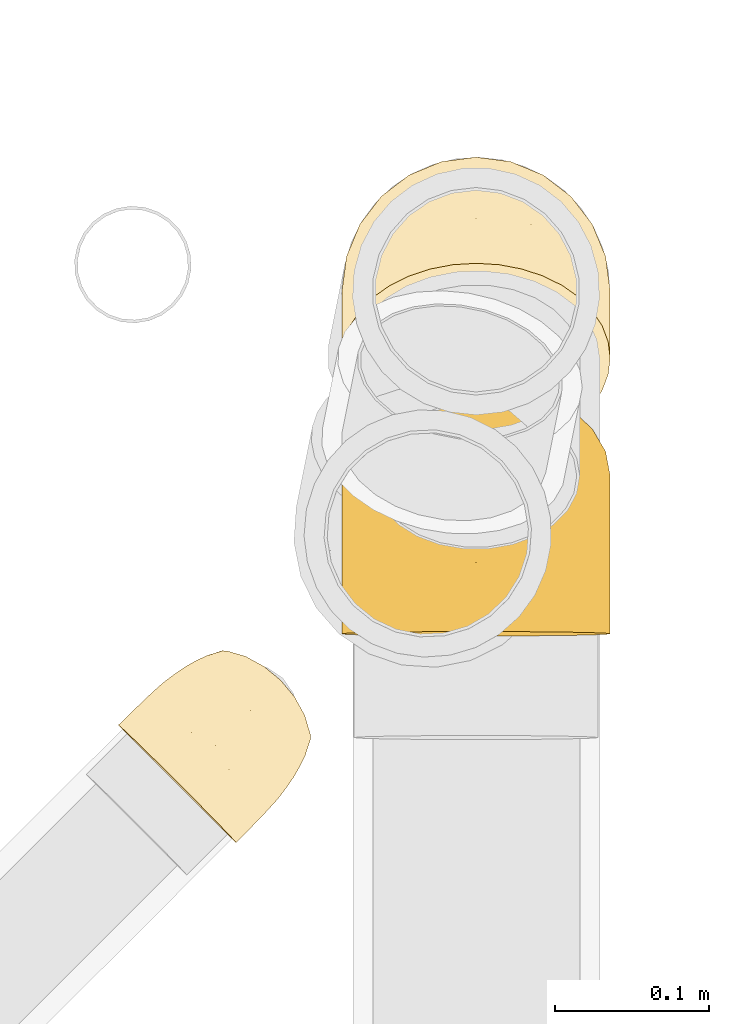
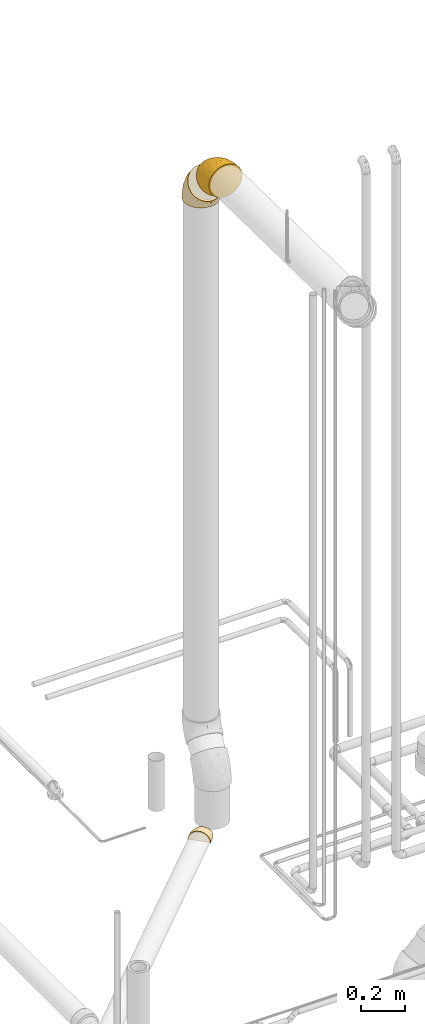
# One storey, part 26 of 156: 3 coverings.
"""IFC2X3 building model written with IfcOpenShell, lengths in millimetres."""

from ifc_helpers import new_model, entity, si_unit, converted_unit, derived_unit, direction, frame, origin_with_axes, place, context, subcontext, project, spatial, open_shell, faceted_brep, surface_model, source, transform, mapped, element, save


model = new_model("IFC2X3")

# Units and contexts
model_context = context("Model", 3, precision=0.01, world=frame((0.0, 4.29681676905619e-09, 0.0)), true_north=direction((4.01073788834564e-13, 1.0)))
plan_context = context("Plan", 3, precision=0.01, world=frame((0.0, 4.29681676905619e-09, 0.0)), true_north=direction((4.01073788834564e-13, 1.0)))
body_context = subcontext(model_context, "Body", "Model", "MODEL_VIEW")
ifc_project = project(units=[converted_unit("PLANEANGLEUNIT", "DEGREE", entity("IfcPositiveLengthMeasure", 0.0174532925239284), si_unit("PLANEANGLEUNIT", "RADIAN"), dimensions=[0, 0, 0, 0, 0, 0, 0]), si_unit("AREAUNIT", "SQUARE_METRE"), si_unit("LENGTHUNIT", "METRE", prefix="MILLI"), si_unit("MASSUNIT", "GRAM", prefix="KILO"), si_unit("POWERUNIT", "WATT"), si_unit("PRESSUREUNIT", "PASCAL", prefix="KILO"), si_unit("FORCEUNIT", "NEWTON", prefix="KILO"), si_unit("ELECTRICVOLTAGEUNIT", "VOLT"), si_unit("ELECTRICCURRENTUNIT", "AMPERE"), si_unit("THERMODYNAMICTEMPERATUREUNIT", "DEGREE_CELSIUS"), si_unit("TIMEUNIT", "SECOND"), si_unit("VOLUMEUNIT", "CUBIC_METRE"), derived_unit("LINEARVELOCITYUNIT", [(si_unit("LENGTHUNIT", "METRE"), 1), (si_unit("TIMEUNIT", "SECOND"), -1)]), derived_unit("VOLUMETRICFLOWRATEUNIT", [(si_unit("VOLUMEUNIT", "CUBIC_METRE"), 1), (si_unit("TIMEUNIT", "SECOND"), -1)]), derived_unit("THERMALTRANSMITTANCEUNIT", [(si_unit("POWERUNIT", "WATT"), 1), (si_unit("THERMODYNAMICTEMPERATUREUNIT", "KELVIN"), -1), (si_unit("AREAUNIT", "SQUARE_METRE"), -1)]), derived_unit("SOUNDPRESSUREUNIT", [(si_unit("PRESSUREUNIT", "PASCAL"), 1)])], contexts=[model_context, plan_context])

# Site, building, storey
site_placement = place(None, frame((0.0, -4.29681676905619e-09, 0.0), z_axis=(0.0, 0.0, 1.0), x_axis=(1.0, 0.0, 0.0)))
site = spatial("IfcSite", under=ifc_project, at=site_placement, CompositionType="ELEMENT")
building_placement = place(site_placement, frame((0.0, 4.29681676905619e-09, 0.0), z_axis=(0.0, 0.0, 1.0), x_axis=(1.0, 0.0, 0.0)))
building = spatial("IfcBuilding", under=site, at=building_placement, Name="mc-building", CompositionType="ELEMENT")
storey_placement = place(building_placement, frame((0.0, 0.0, 205200.0), z_axis=(0.0, 0.0, 1.0), x_axis=(1.0, 0.0, 0.0)))
storey = spatial("IfcBuildingStorey", under=building, at=storey_placement, Name="Nivå D + 1,2 m", CompositionType="ELEMENT", Elevation=205200.0)

# Coverings
shared_shape_1 = source(origin_with_axes(), body_context, "Body", "SurfaceModel", [
    surface_model("IfcShellBasedSurfaceModel", [(96.92175, -9.93246, -43.63085), (83.14842, 3.84086, -66.84099), (104.25196, -17.26267, -15.15456), (90.75284, -3.76355, -56.08822), (101.4676, -14.47832, -29.84685), (104.25267, -17.26338, 15.14884), (105.18971, -18.20042, 0.0), (-61.51071, 84.27703, -22.58196), (-61.51071, 61.69507, 61.69507), (-61.51071, 87.25, 0.0), (-61.51071, 61.69507, -61.69507), (-61.51071, 75.56072, -43.625), (-61.51071, 43.625, -75.56072), (-61.51071, 22.58196, -84.27703), (-61.51071, 84.27703, 22.58196), (-61.51071, 75.56072, 43.625), (-61.51071, 22.58196, 84.27703), (-61.51071, 43.625, 75.56072), (-61.51071, 0.0, 87.25), (-61.51071, -22.58196, -84.27703), (-61.51071, -61.69507, -61.69507), (-61.51071, -43.625, -75.56072), (-61.51071, -84.27703, -22.58196), (-61.51071, -75.56072, -43.625), (-61.51071, -22.58196, 84.27703), (-61.51071, -43.625, 75.56072), (-61.51071, -75.56072, 43.625), (-61.51071, -61.69507, 61.69507), (-61.51071, -87.25, 0.0), (-61.51071, -84.27703, 22.58196), (-61.51071, 0.0, -87.25), (49.94408, -31.42666, 60.20486), (36.66407, -25.68571, 70.46794), (-2.41505, -50.25138, 64.41375), (-15.51817, -82.72013, 0.0), (5.39014, -73.8055, 24.7907), (28.70691, -69.3046, 0.0), (69.46497, -47.51896, 0.0), (49.04275, -57.66779, 17.68682), (3.06642, -7.40299, 84.86798), (44.05947, -6.10182, 78.19376), (54.21053, 32.77875, 85.92382), (23.31676, -56.28888, 47.53773), (-22.03918, -66.60971, 51.81083), (74.34631, 12.64297, 75.55734), (12.73929, 19.89523, 87.25), (-23.07609, 5.06001, 87.25), (-29.1157, -32.30381, 79.84183), (61.71586, -43.47857, 35.67326), (101.46978, -14.48049, 29.83841), (90.75836, -3.76908, 56.07891), (96.92567, -9.93639, 43.62124), (83.15501, 3.83428, 66.83318), (10.91563, -26.34768, 77.1468), (43.49464, 43.49464, 87.25), (64.59955, 22.38973, 81.98615), (8.40151, 39.12611, 85.22446), (-23.83137, 57.53545, 71.47388), (-28.10389, 33.73734, 82.29869), (-2.21756, 53.91905, 79.07691), (-44.71865, 54.60414, 69.22008), (-49.79103, 89.58119, 0.0), (-40.41301, 88.79935, 18.88754), (-49.04358, 82.48312, 31.62645), (-27.39793, 94.08428, 22.58668), (-34.94147, 84.35774, 36.8792), (-37.82729, 70.34331, 56.08752), (-15.4013, 74.9489, 61.69936), (-22.17297, 90.15895, 38.82495), (-3.76355, 90.75284, 56.08822), (-9.93246, 96.92175, 43.63085), (22.3957, 64.59359, 81.98922), (12.64977, 74.33952, 75.56289), (-38.07135, 91.91238, 0.0), (3.84086, 83.14842, 66.84099), (-17.26267, 104.25196, 15.15456), (-28.13589, 98.55104, 0.0), (32.7828, 54.20649, 85.92482), (-14.47832, 101.4676, 29.84685), (-18.20042, 105.18971, 0.0), (-47.55395, 70.45825, -53.11443), (-34.71085, 60.05887, -66.83377), (-42.15077, 88.57974, -17.23989), (-30.07501, 92.4973, -22.57953), (-45.69571, 82.4762, -33.38913), (-32.0337, 77.3373, -50.04045), (-15.40587, 74.95618, -61.69077), (-0.19598, 57.5653, -78.13569), (3.83428, 83.15501, -66.83318), (12.64297, 74.34631, -75.55734), (12.73929, 19.89523, -87.25), (-18.60686, 25.9378, -85.23447), (5.3683, 41.81653, -84.27577), (-19.13019, 85.64492, -48.25404), (-14.48049, 101.46978, -29.83841), (-9.93639, 96.92567, -43.62124), (-23.07609, 5.06001, -87.25), (-18.79439, 45.37619, -79.07267), (-39.82663, 33.66047, -81.31439), (32.77875, 54.21053, -85.92382), (-46.62686, 90.21058, 0.0), (-17.26338, 104.25267, -15.14884), (-3.76908, 90.75836, -56.07891), (22.38973, 64.59955, -81.98615), (43.49464, 43.49464, -87.25), (3.06455, -7.39848, -84.86914), (-2.42075, -50.24511, -64.42072), (36.65759, -25.67933, -70.47432), (49.93768, -31.42103, -60.21341), (64.25148, -47.66713, -21.66027), (44.05272, -6.09576, -78.19812), (74.33952, 12.64977, -75.56289), (10.90946, -26.34098, -77.15131), (-22.04933, -66.6058, -51.81852), (5.39814, -73.82445, -24.72159), (23.31194, -56.28434, -47.54704), (-29.122, -32.30458, -79.84198), (62.51766, -36.3023, -46.11965), (64.59359, 22.3957, -81.98922), (54.20649, 32.7828, -85.92482)], [open_shell([[[0, 1, 2]], [[0, 3, 1]], [[0, 2, 4]], [[5, 6, 2]], [[7, 8, 9]], [[10, 7, 11]], [[8, 7, 12]], [[12, 7, 10]], [[8, 12, 13]], [[14, 8, 15]], [[14, 9, 8]], [[8, 16, 17]], [[13, 16, 8]], [[13, 18, 16]], [[13, 19, 18]], [[19, 20, 18]], [[20, 19, 21]], [[22, 18, 23]], [[18, 20, 23]], [[24, 18, 22]], [[25, 26, 27]], [[28, 25, 24]], [[26, 28, 29]], [[28, 26, 25]], [[24, 22, 28]], [[19, 13, 30]], [[31, 32, 33]], [[29, 28, 34]], [[35, 34, 36]], [[37, 38, 36]], [[39, 40, 41]], [[42, 33, 43]], [[32, 44, 40]], [[35, 42, 43]], [[45, 46, 39]], [[47, 24, 25]], [[35, 36, 38]], [[42, 35, 48]], [[25, 27, 33]], [[46, 18, 24]], [[47, 39, 24]], [[26, 29, 35]], [[42, 31, 33]], [[24, 39, 46]], [[38, 5, 49]], [[29, 34, 35]], [[31, 48, 50]], [[48, 51, 50]], [[49, 48, 38]], [[5, 37, 6]], [[27, 43, 33]], [[52, 32, 31]], [[50, 52, 31]], [[33, 32, 53]], [[45, 39, 41]], [[54, 45, 41]], [[43, 27, 26]], [[33, 53, 47]], [[42, 48, 31]], [[55, 40, 44]], [[5, 38, 37]], [[32, 40, 53]], [[44, 32, 52]], [[40, 55, 41]], [[35, 38, 48]], [[49, 51, 48]], [[35, 43, 26]], [[53, 40, 39]], [[33, 47, 25]], [[39, 47, 53]], [[56, 46, 45]], [[16, 18, 46]], [[57, 58, 59]], [[58, 46, 56]], [[16, 46, 58]], [[17, 60, 8]], [[61, 9, 14]], [[58, 57, 60]], [[58, 60, 17]], [[62, 14, 63]], [[64, 62, 65]], [[66, 57, 67]], [[62, 63, 65]], [[68, 69, 70]], [[66, 65, 63]], [[71, 72, 59]], [[62, 73, 61]], [[74, 69, 67]], [[59, 74, 67]], [[71, 59, 56]], [[72, 74, 59]], [[75, 76, 64]], [[66, 67, 65]], [[56, 54, 77]], [[78, 75, 64]], [[78, 64, 68]], [[17, 16, 58]], [[64, 73, 62]], [[56, 45, 54]], [[60, 66, 8]], [[64, 65, 68]], [[15, 8, 66]], [[59, 67, 57]], [[66, 63, 15]], [[67, 69, 68]], [[62, 61, 14]], [[14, 15, 63]], [[66, 60, 57]], [[67, 68, 65]], [[78, 68, 70]], [[71, 56, 77]], [[58, 56, 59]], [[76, 75, 79]], [[76, 73, 64]], [[80, 81, 10]], [[82, 73, 83]], [[11, 80, 10]], [[84, 80, 11]], [[85, 86, 81]], [[87, 88, 89]], [[90, 91, 92]], [[93, 94, 95]], [[30, 13, 96]], [[13, 91, 96]], [[91, 97, 92]], [[91, 98, 97]], [[91, 90, 96]], [[13, 98, 91]], [[99, 90, 92]], [[100, 82, 7]], [[76, 79, 101]], [[83, 84, 82]], [[102, 88, 86]], [[93, 102, 86]], [[101, 94, 83]], [[94, 93, 83]], [[81, 97, 98]], [[85, 80, 84]], [[101, 83, 76]], [[92, 103, 99]], [[103, 92, 87]], [[7, 84, 11]], [[104, 90, 99]], [[81, 86, 97]], [[83, 85, 84]], [[92, 97, 87]], [[12, 10, 81]], [[85, 93, 86]], [[81, 98, 12]], [[86, 88, 87]], [[7, 9, 100]], [[13, 12, 98]], [[81, 80, 85]], [[83, 93, 85]], [[102, 93, 95]], [[86, 87, 97]], [[103, 87, 89]], [[83, 73, 76]], [[7, 82, 84]], [[73, 82, 100]], [[105, 19, 96]], [[106, 107, 108]], [[108, 107, 1]], [[36, 109, 37]], [[90, 105, 96]], [[30, 96, 19]], [[107, 110, 111]], [[107, 106, 112]], [[34, 28, 22]], [[20, 113, 23]], [[114, 113, 115]], [[113, 114, 23]], [[23, 114, 22]], [[106, 21, 116]], [[113, 20, 106]], [[36, 114, 109]], [[117, 0, 4]], [[19, 116, 21]], [[118, 110, 119]], [[3, 117, 108]], [[119, 110, 105]], [[111, 1, 107]], [[108, 1, 3]], [[113, 106, 115]], [[105, 112, 116]], [[111, 110, 118]], [[21, 106, 20]], [[0, 117, 3]], [[109, 4, 2]], [[108, 117, 115]], [[115, 109, 114]], [[34, 114, 36]], [[2, 6, 37]], [[107, 112, 110]], [[106, 108, 115]], [[37, 109, 2]], [[22, 114, 34]], [[4, 109, 117]], [[119, 105, 90]], [[119, 90, 104]], [[105, 110, 112]], [[109, 115, 117]], [[105, 116, 19]], [[106, 116, 112]], [[94, 101, 95]], [[88, 102, 95]], [[89, 99, 103]], [[50, 51, 44]], [[51, 49, 5]], [[44, 52, 50]], [[2, 51, 5]], [[1, 111, 54]], [[69, 74, 72]], [[54, 41, 55]], [[55, 44, 54]], [[118, 119, 111]], [[54, 119, 77]], [[69, 75, 78]], [[69, 79, 75]], [[78, 70, 69]], [[69, 71, 99]], [[69, 72, 71]], [[99, 79, 69]], [[119, 104, 71]], [[95, 101, 88]], [[89, 88, 99]], [[101, 79, 88]], [[99, 88, 79]], [[71, 104, 99]], [[71, 77, 119]], [[1, 54, 44]], [[44, 51, 1]], [[111, 119, 54]], [[2, 1, 51]]])]),
])
covering_1_placement = place(storey_placement, frame((324308.57539, 464415.93402, 7356.92178999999), z_axis=(1.0, 0.0, 0.0), x_axis=(0.0, 0.0, 1.0)))
element("IfcCovering", 1, at=covering_1_placement, inside=storey, Name="BI17T - Cellegummi 13 mm SPV fett", PredefinedType="INSULATION", context=body_context, shape_type="MappedRepresentation", body=[
    mapped(shared_shape_1, transform((0.0, 0.0, 0.0), scale=1.0)),
])
shared_shape_2 = source(origin_with_axes(), body_context, "Body", "SurfaceModel", [
    surface_model("IfcShellBasedSurfaceModel", [(-13.82388, 100.69037, 29.84685), (-9.35441, 96.06939, 43.63085), (-16.56144, 103.52073, 15.15456), (4.18748, 82.06846, 66.84099), (-3.28915, 89.79853, 56.08822), (-13.82601, 100.69257, -29.83841), (-16.56215, 103.52146, -15.14884), (-9.35827, 96.07339, -43.62124), (12.84169, 73.12089, -75.55734), (32.63912, 52.65235, -85.92382), (22.42467, 63.21306, -81.98615), (43.17495, 41.75938, 87.25), (53.71078, 30.8664, 85.92382), (63.92523, 20.3057, 81.98615), (95.70817, -12.55463, 43.62124), (100.17592, -17.17382, 29.83841), (102.91204, -20.0027, 15.14884), (95.70431, -12.55064, -43.63085), (82.16242, 1.4503, -66.84099), (73.50153, 10.40478, -75.56289), (89.63905, -6.27978, -56.08822), (102.91134, -20.00198, -15.15456), (100.17377, -17.17161, -29.84685), (103.83334, -20.95523, 0.0), (-60.06598, 84.27703, -22.58196), (-60.06598, 61.69507, 61.69507), (-60.06598, 87.25, 0.0), (-60.06598, 61.69507, -61.69507), (-60.06598, 75.56072, -43.625), (-60.06598, 43.625, -75.56072), (-60.06598, 22.58196, -84.27703), (-60.06598, 84.27703, 22.58196), (-60.06598, 75.56072, 43.625), (-60.06598, 22.58196, 84.27703), (-60.06598, 43.625, 75.56072), (-60.06598, 0.0, 87.25), (-60.06598, -22.58196, -84.27703), (-60.06598, -61.69507, -61.69507), (-60.06598, -43.625, -75.56072), (-60.06598, -84.27703, -22.58196), (-60.06598, -75.56072, -43.625), (-60.06598, -22.58196, 84.27703), (-60.06598, -43.625, 75.56072), (-60.06598, -75.56072, 43.625), (-60.06598, -61.69507, 61.69507), (-60.06598, -87.25, 0.0), (-60.06598, -84.27703, 22.58196), (-60.06598, 0.0, -87.25), (-15.03716, -82.90974, 0.0), (5.4478, -74.19942, 24.85146), (28.33366, -70.04877, 0.0), (68.44952, -49.14065, 0.0), (48.32613, -58.80554, 17.7156), (3.18731, -7.87993, 84.8823), (43.57932, -7.30099, 78.23402), (23.02625, -56.92449, 47.64399), (-4.25848, -51.08126, 64.51769), (-21.56062, -66.78793, 51.80659), (36.23462, -26.64624, 70.52073), (73.50821, 10.39787, 75.55734), (12.75066, 19.07826, 87.25), (-22.42875, 4.84872, 87.25), (-28.57398, -32.37633, 79.87952), (60.60752, -45.0701, 35.71765), (49.02567, -32.80756, 60.26021), (89.64448, -6.2854, 56.07891), (82.16889, 1.44361, 66.83318), (10.84069, -26.79605, 77.23151), (8.06336, 38.05016, 85.21635), (-23.1459, 57.22465, 71.47388), (-27.82519, 34.01375, 82.08977), (-2.01969, 53.14874, 79.07691), (-43.70474, 54.52811, 69.22008), (-48.58246, 89.48452, 0.0), (-14.92619, 74.34987, 61.69936), (-21.48625, 89.83727, 38.51672), (-34.03211, 84.13859, 36.8792), (-39.85206, 88.49434, 18.88756), (-47.98056, 82.28904, 31.93615), (-26.67057, 93.6411, 22.58668), (-37.6445, 69.97198, 56.08751), (22.43053, 63.20699, 81.98922), (12.84837, 73.11398, 75.56289), (-37.09895, 91.71904, 0.0), (-27.29119, 98.09651, 0.0), (32.6431, 52.64824, 85.92482), (-17.48344, 104.47398, 0.0), (-46.4673, 70.39506, -53.11443), (-34.69411, 59.63867, -66.83377), (-41.37472, 88.36473, -17.25445), (-29.42753, 92.05718, -22.57953), (-18.30709, 85.00178, -48.54017), (-31.18294, 77.09417, -50.04045), (-14.93066, 74.35721, -61.69077), (0.36716, 56.6079, -78.28809), (4.18101, 82.07515, -66.83318), (12.75066, 19.07826, -87.25), (-18.79671, 25.54057, -85.20056), (5.40661, 40.94766, -84.27577), (-22.42875, 4.84872, -87.25), (-18.2104, 45.02385, -79.07267), (-39.1346, 33.82976, -81.19553), (-45.16589, 90.14933, 0.0), (-44.47067, 82.42396, -33.38913), (-3.29459, 89.80415, -56.07891), (43.17495, 41.75938, -87.25), (5.49065, -13.57443, -83.18205), (4.33866, -59.10293, -53.5758), (-17.62565, -76.10844, -34.63084), (55.53155, -39.73019, -48.70238), (51.39076, -28.45821, -62.73869), (37.63843, -11.52429, -78.05156), (63.91936, 20.31176, -81.98922), (6.11628, -75.79566, -18.08077), (-18.60508, -34.58146, -77.93945), (28.01061, -62.33725, -34.83402), (64.1466, -48.63473, -21.71719), (15.53911, -38.4137, -69.21155), (-25.84427, -51.48731, -68.21902), (53.7068, 30.87051, -85.92482)], [open_shell([[[0, 1, 2]], [[2, 1, 3]], [[1, 4, 3]], [[5, 6, 7]], [[8, 9, 10]], [[11, 12, 13]], [[14, 15, 16]], [[17, 18, 19]], [[17, 20, 18]], [[17, 21, 22]], [[16, 23, 21]], [[24, 25, 26]], [[27, 24, 28]], [[25, 24, 29]], [[29, 24, 27]], [[25, 29, 30]], [[31, 25, 32]], [[31, 26, 25]], [[25, 33, 34]], [[30, 33, 25]], [[30, 35, 33]], [[30, 36, 35]], [[36, 37, 35]], [[37, 36, 38]], [[39, 35, 40]], [[35, 37, 40]], [[41, 35, 39]], [[42, 43, 44]], [[45, 42, 41]], [[43, 45, 46]], [[45, 43, 42]], [[41, 39, 45]], [[36, 30, 47]], [[46, 48, 49]], [[46, 45, 48]], [[49, 48, 50]], [[51, 52, 50]], [[53, 54, 12]], [[55, 56, 57]], [[49, 55, 57]], [[58, 59, 54]], [[60, 61, 53]], [[62, 41, 42]], [[49, 50, 52]], [[55, 49, 63]], [[42, 44, 56]], [[61, 35, 41]], [[62, 53, 41]], [[43, 46, 49]], [[55, 64, 56]], [[41, 53, 61]], [[52, 16, 15]], [[64, 58, 56]], [[64, 63, 65]], [[63, 14, 65]], [[15, 63, 52]], [[16, 51, 23]], [[44, 57, 56]], [[66, 58, 64]], [[65, 66, 64]], [[56, 58, 67]], [[60, 53, 12]], [[11, 60, 12]], [[57, 44, 43]], [[56, 67, 62]], [[55, 63, 64]], [[13, 54, 59]], [[54, 13, 12]], [[49, 52, 63]], [[59, 58, 66]], [[16, 52, 51]], [[58, 54, 67]], [[15, 14, 63]], [[49, 57, 43]], [[67, 54, 53]], [[56, 62, 42]], [[53, 62, 67]], [[68, 61, 60]], [[33, 35, 61]], [[69, 70, 71]], [[70, 61, 68]], [[33, 61, 70]], [[34, 72, 25]], [[73, 26, 31]], [[70, 69, 72]], [[74, 75, 76]], [[77, 31, 78]], [[79, 77, 76]], [[80, 69, 74]], [[77, 78, 76]], [[75, 4, 1]], [[80, 76, 78]], [[81, 82, 71]], [[77, 83, 73]], [[3, 4, 74]], [[71, 3, 74]], [[71, 82, 3]], [[81, 71, 68]], [[2, 84, 79]], [[80, 74, 76]], [[11, 85, 60]], [[0, 2, 79]], [[0, 79, 75]], [[34, 33, 70]], [[79, 83, 77]], [[85, 68, 60]], [[72, 80, 25]], [[79, 76, 75]], [[32, 25, 80]], [[71, 74, 69]], [[80, 78, 32]], [[74, 4, 75]], [[77, 73, 31]], [[31, 32, 78]], [[0, 75, 1]], [[70, 72, 34]], [[80, 72, 69]], [[81, 68, 85]], [[70, 68, 71]], [[84, 2, 86]], [[84, 83, 79]], [[87, 88, 27]], [[89, 83, 90]], [[28, 87, 27]], [[90, 91, 92]], [[92, 93, 88]], [[94, 95, 8]], [[96, 97, 98]], [[91, 5, 7]], [[47, 30, 99]], [[30, 97, 99]], [[97, 100, 98]], [[97, 101, 100]], [[97, 96, 99]], [[30, 101, 97]], [[9, 96, 98]], [[102, 89, 24]], [[84, 86, 6]], [[90, 103, 89]], [[104, 95, 93]], [[91, 104, 93]], [[6, 5, 90]], [[5, 91, 90]], [[88, 100, 101]], [[92, 87, 103]], [[6, 90, 84]], [[98, 10, 9]], [[10, 98, 94]], [[24, 103, 28]], [[105, 96, 9]], [[88, 93, 100]], [[90, 92, 103]], [[98, 100, 94]], [[29, 27, 88]], [[92, 91, 93]], [[88, 101, 29]], [[93, 95, 94]], [[24, 26, 102]], [[30, 29, 101]], [[104, 91, 7]], [[93, 94, 100]], [[10, 94, 8]], [[103, 87, 28]], [[88, 87, 92]], [[90, 83, 84]], [[24, 89, 103]], [[83, 89, 102]], [[99, 106, 36]], [[107, 108, 40]], [[20, 109, 110]], [[111, 112, 19]], [[96, 106, 99]], [[47, 99, 36]], [[39, 108, 113]], [[36, 106, 114]], [[48, 45, 39]], [[114, 106, 111]], [[36, 114, 38]], [[108, 115, 113]], [[115, 116, 113]], [[110, 107, 117]], [[40, 37, 107]], [[116, 17, 22]], [[107, 118, 117]], [[37, 38, 118]], [[106, 96, 119]], [[114, 118, 38]], [[112, 106, 119]], [[48, 39, 113]], [[19, 110, 111]], [[107, 115, 108]], [[114, 111, 117]], [[112, 111, 106]], [[118, 107, 37]], [[20, 17, 109]], [[22, 21, 116]], [[116, 109, 17]], [[20, 110, 18]], [[50, 113, 116]], [[21, 23, 51]], [[50, 116, 51]], [[21, 51, 116]], [[116, 115, 109]], [[107, 109, 115]], [[50, 48, 113]], [[110, 19, 18]], [[119, 96, 105]], [[108, 39, 40]], [[117, 118, 114]], [[107, 110, 109]], [[111, 110, 117]], [[2, 6, 86]], [[2, 119, 6]], [[3, 82, 81]], [[119, 2, 3]], [[119, 3, 81]], [[8, 104, 7]], [[7, 6, 8]], [[95, 104, 8]], [[9, 8, 105]], [[6, 119, 8]], [[8, 119, 105]], [[85, 119, 81]], [[13, 59, 11]], [[85, 59, 112]], [[65, 21, 59]], [[65, 14, 21]], [[65, 59, 66]], [[16, 21, 14]], [[17, 19, 112]], [[119, 85, 112]], [[17, 112, 21]], [[59, 21, 112]], [[85, 11, 59]]])]),
])
covering_2_placement = place(storey_placement, frame((324308.57539, 464253.21703, 7519.63878000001), z_axis=(1.0, 0.0, 0.0), x_axis=(0.0, -0.707106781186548, 0.707106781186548)))
element("IfcCovering", 2, at=covering_2_placement, inside=storey, Name="BI17T - Cellegummi 13 mm SPV fett", PredefinedType="INSULATION", context=body_context, shape_type="MappedRepresentation", body=[
    mapped(shared_shape_2, transform((0.0, 0.0, 0.0), scale=1.0)),
])
covering_3_placement = place(storey_placement, frame((324137.78707, 464119.04373, 3998.53398000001), z_axis=(0.707056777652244, -0.707156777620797, -7.09999776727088e-05), x_axis=(-0.499999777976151, -0.500000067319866, 0.707106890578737)))
element("IfcCovering", 3, at=covering_3_placement, inside=storey, Name="BI17T - Cellegummi 13 mm SPV fett", PredefinedType="INSULATION", context=body_context, shape_type="Brep", body=[
    faceted_brep([(24.619221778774, 22.5447521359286, 12.0674899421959), (24.6186370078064, 22.5453582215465, 0.207447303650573), (60.7583, -14.8197, 12.05862), (24.617426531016, 22.5466136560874, -24.3511887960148), (53.46861, -7.28283, -33.83302), (60.75544, -14.81674, -12.07667), (61.70183, -15.79522, 0.0), (57.96418, -11.93083, -23.54601), (24.6169572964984, 22.5470955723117, -33.8239401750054), (24.6164886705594, 22.5475781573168, -43.2972911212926), (24.6159726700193, 22.5481181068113, -53.8137652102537), (24.6159611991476, 22.5481296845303, -54.0433119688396), (40.34196, 6.2889, -48.88334), (24.6159560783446, 22.5481350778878, -54.1480251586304), (32.36945, 14.53174, -52.89284), (47.49459, -1.10626, -42.42222), (24.6204590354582, 22.5434752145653, 37.1068265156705), (24.6208340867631, 22.5430840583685, 44.7376812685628), (24.6210119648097, 22.5428992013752, 48.3502514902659), (53.47889, -7.29347, 33.81446), (57.97081, -11.93769, 23.52619), (24.6212367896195, 22.5426681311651, 52.8906255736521), (32.382, 14.51876, 52.88872), (24.6213021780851, 22.5426073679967, 54.1470016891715), (47.5075, -1.1196, 42.40742), (40.35574, 6.27466, 48.8738), (-33.36978, -35.4403544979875, -26.9068419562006), (-33.36978, -35.4466846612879, 36.1368494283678), (-33.36978, -52.40148, 14.04093), (-33.36978, -35.4471324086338, 40.59607806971), (-33.36978, -38.36054, 38.36054), (-33.36978, -46.98188, 27.125), (-33.36978, -35.4394267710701, -36.1463080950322), (-33.36978, -52.40148, -14.04093), (-33.36978, -54.25, 0.0), (-33.36978, -35.4389793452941, -40.6023341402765), (-33.36978, -38.36054, -38.36054), (-33.36978, -46.98188, -27.125), (29.52255, -21.80853, 37.39544), (38.71884, -24.33325, 28.14138), (15.88469, -37.13791, 27.30038), (36.28576, -31.9218, 17.18516), (33.68493, -36.68149, 0.0), (36.2802, -31.91789, -17.2038), (38.7121, -24.32374, -28.16057), (15.87871, -37.12844, -27.31931), (6.64299, -46.20283, -14.48945), (-8.84782, -43.1278, -29.54538), (4.39172, -33.88929, -36.79815), (29.51496, -21.79432, -37.41234), (10.05365, -22.35654, -44.52577), (29.87601, -10.32006, -45.31975), (15.71153, -7.19011, -50.53061), (-9.28426, -19.18799, -49.58827), (-12.32048, -31.23321, -42.93212), (-20.970633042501, -23.0390531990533, -48.3236410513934), (-26.4138950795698, -28.4825860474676, -45.643609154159), (-33.36978, -35.7196578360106, -40.3869617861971), (-15.7401538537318, -17.8083696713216, -50.3423241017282), (-9.47776713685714, -11.5458183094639, -51.9624532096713), (6.00052463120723, 3.93265967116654, -53.7685180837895), (-1.90331582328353, -3.97123270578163, -53.2761615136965), (11.75019, 2.51026, -53.44033), (22.1315576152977, 20.0637337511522, -54.1272852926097), (-5.47745875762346, -7.54542922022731, -52.7537367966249), (1.28922, -49.78498, 0.0), (6.67056, -46.19818, 14.47594), (-8.8366, -43.13742, 29.52752), (4.40031, -33.90258, 36.78157), (-12.33337, -31.25261, 42.91919), (-26.412290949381, -28.4901474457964, 45.6382039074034), (-20.9686023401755, -23.0467264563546, 48.3205444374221), (-9.29231, -19.20684, 49.58096), (10.05841, -22.37456, 44.5129), (15.72025, -7.2067, 50.52328), (29.8856, -10.3365, 45.30726), (11.80301, 2.536, 53.43971), (22.1298438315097, 20.0511502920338, 54.1265448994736), (6.02767193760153, 3.9490092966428, 53.7683919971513), (-1.90703209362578, -3.98564755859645, 53.2737055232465), (-15.7442315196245, -17.8225564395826, 50.3367609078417), (-9.4613313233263, -11.5398175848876, 51.9632785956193), (-5.47499535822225, -7.5535596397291, 52.7527828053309)], [[[0, 1, 2]], [[1, 3, 4, 2]], [[4, 5, 2]], [[5, 6, 2]], [[5, 4, 7]], [[3, 8, 4]], [[8, 9, 4]], [[9, 10, 4]], [[10, 11, 12, 4]], [[11, 13, 14, 12]], [[15, 4, 12]], [[16, 0, 2]], [[17, 16, 2]], [[18, 17, 2, 19]], [[19, 2, 20]], [[21, 18, 19, 22]], [[23, 21, 22]], [[24, 22, 19]], [[25, 22, 24]], [[26, 27, 28]], [[27, 29, 30, 28]], [[31, 28, 30]], [[32, 26, 28, 33]], [[28, 34, 33]], [[35, 32, 33, 36]], [[33, 37, 36]], [[19, 38, 24]], [[19, 39, 38]], [[40, 38, 39]], [[40, 39, 41]], [[41, 39, 20]], [[2, 41, 20]], [[41, 2, 42]], [[42, 2, 6]], [[42, 6, 5]], [[43, 42, 5]], [[7, 43, 5]], [[7, 44, 43]], [[45, 43, 44]], [[45, 46, 43]], [[45, 47, 46]], [[45, 48, 47]], [[45, 49, 48]], [[48, 49, 50]], [[49, 51, 50]], [[50, 51, 52]], [[50, 52, 53]], [[54, 50, 53]], [[55, 56, 54, 53]], [[56, 57, 36, 54]], [[48, 54, 36]], [[58, 55, 53]], [[59, 58, 53]], [[60, 61, 62]], [[63, 60, 62]], [[13, 63, 62, 14]], [[62, 52, 14]], [[14, 52, 12]], [[61, 64, 52, 62]], [[64, 59, 53, 52]], [[51, 12, 52]], [[15, 12, 51]], [[15, 51, 49]], [[4, 15, 49]], [[4, 49, 44]], [[54, 48, 50]], [[48, 36, 47]], [[37, 47, 36]], [[37, 33, 47]], [[33, 46, 47]], [[46, 33, 65]], [[65, 42, 46]], [[66, 42, 65]], [[66, 65, 28]], [[67, 66, 28]], [[28, 31, 67]], [[31, 30, 67]], [[68, 67, 30]], [[68, 30, 69]], [[29, 70, 69, 30]], [[70, 71, 72, 69]], [[73, 69, 72]], [[74, 73, 72]], [[75, 73, 74]], [[73, 75, 38]], [[73, 38, 68]], [[25, 75, 74]], [[24, 75, 25]], [[74, 22, 25]], [[76, 22, 74]], [[77, 23, 22, 76]], [[78, 77, 76]], [[79, 78, 76]], [[80, 81, 72]], [[82, 79, 76, 74]], [[81, 82, 74, 72]], [[71, 80, 72]], [[73, 68, 69]], [[67, 68, 40]], [[67, 40, 66]], [[65, 34, 28]], [[65, 33, 34]], [[45, 44, 49]], [[7, 4, 44]], [[42, 43, 46]], [[42, 66, 41]], [[66, 40, 41]], [[68, 38, 40]], [[39, 19, 20]], [[24, 38, 75]], [[16, 17, 18, 21, 23, 77, 78, 79, 82, 81, 80, 71, 70, 29, 27, 26, 32, 35, 56, 55, 58, 59, 64, 61, 60, 63, 13, 11, 10, 9, 8, 3, 1, 0]]], orient=[[False], [False], [False], [False], [False], [False], [False], [False], [False], [False], [False], [False], [False], [False], [False], [False], [False], [False], [False], [False], [False], [False], [False], [False], [False], [False], [False], [False], [False], [False], [False], [False], [False], [False], [False], [False], [False], [False], [False], [False], [False], [False], [False], [False], [False], [False], [False], [False], [False], [False], [False], [False], [False], [False], [False], [False], [False], [False], [False], [False], [False], [False], [False], [False], [False], [False], [False], [False], [False], [False], [False], [False], [False], [False], [False], [False], [False], [False], [False], [False], [False], [False], [False], [False], [False], [False], [False], [False], [False], [False], [False], [False], [False], [False], [False], [False], [False], [False], [False], [False], [False], [False], [False], [False], [False], [False], [False], [False], [False], [False], [False]]),
])

save(model, "model.ifc")
